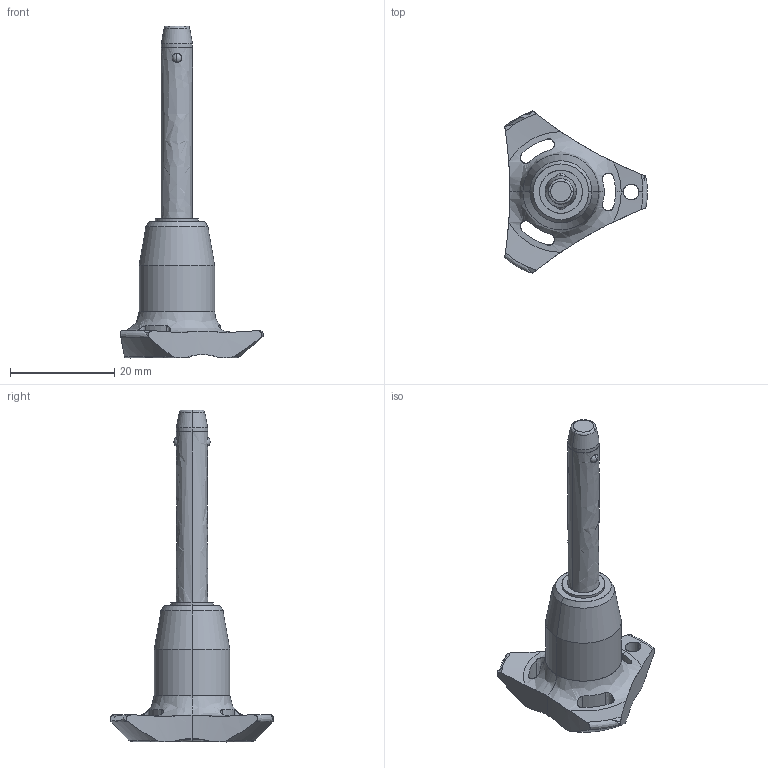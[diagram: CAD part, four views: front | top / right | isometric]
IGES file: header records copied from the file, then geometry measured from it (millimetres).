
Start section: SolidWorks IGES file using analytic representation for surfaces
Global section: file name: C:\Users\ianosborn\Desktop\QR1716_v2\QR1716_v2_20251114_IGES\QR1716.M06-030-T.igs; native system: SolidWorks 2019; preprocessor: SolidWorks 2019; author: IanOsborn; date: 251113.102744; units: millimetre
Bounding box: 27.4 x 31.31 x 63.7 mm (x, y, z)
Surface area: 3118.5 mm2 (no closed solid volume)
Topology: 0 solids, 0 shells, 69 faces, 1323 edges, 1304 vertices
Faces by surface type: revolution 52, bspline 17
